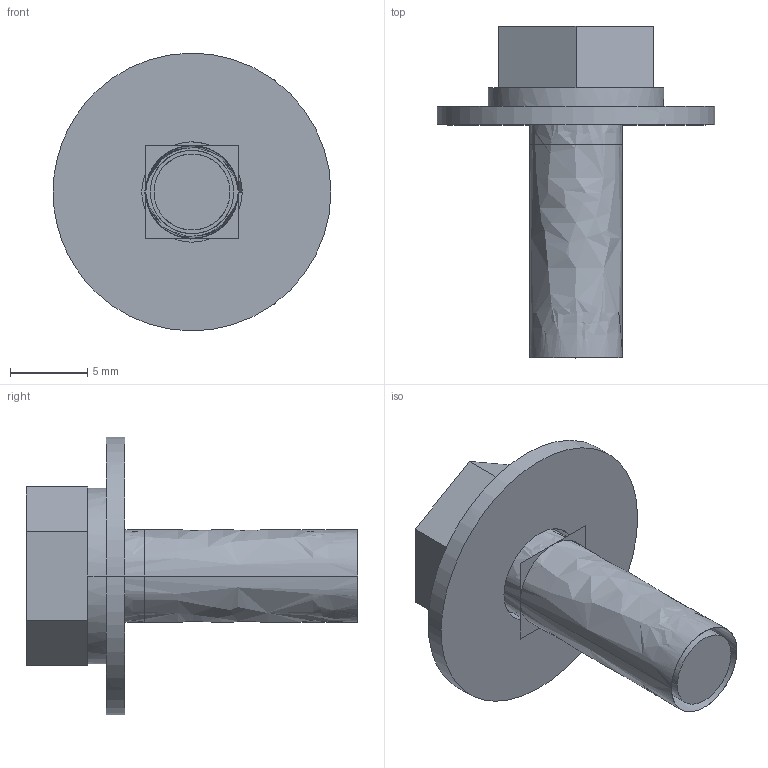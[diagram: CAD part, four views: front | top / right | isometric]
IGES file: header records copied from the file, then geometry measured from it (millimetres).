
Start section:  PTC IGES file: swpwpupm6x18_d-cv2-370_1.igs
Global section: file name: swpwpupm6x18_d-cv2-370_1.igs; native system: Creo Parametric by Parametric Technology Corporation; preprocessor: 2014310; author: JR20012; organization: Unknown; date: 20160927.133803; units: millimetre
Bounding box: 18 x 21.5 x 18 mm (x, y, z)
Volume: 1029.5 mm3; surface area: 2361.1 mm2
Topology: 1 solids, 3 shells, 49 faces, 141 edges, 119 vertices
Faces by surface type: bspline 49
